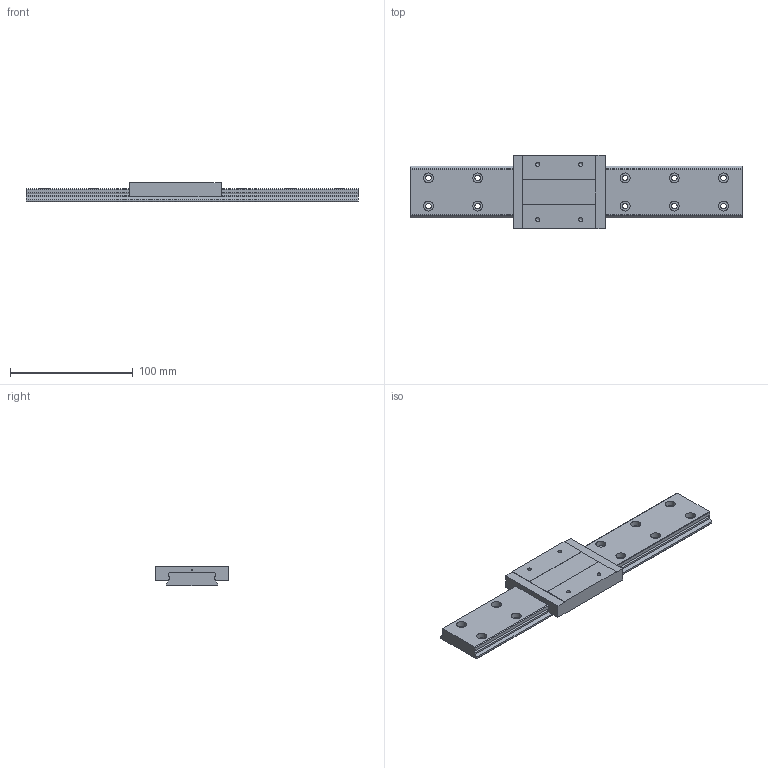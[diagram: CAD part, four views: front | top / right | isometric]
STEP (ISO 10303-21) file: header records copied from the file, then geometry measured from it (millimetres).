
FILE_DESCRIPTION((''),'2;1');
FILE_NAME('D:\製品 (図面)\カタログ用3D\リニアガイド関連\STEP形式\LGM-WL\LGM15WL.stp','2010-06-02T15:59:01',('Tsuchiya'),(''),'Autodesk Inventor 10','Autodesk Inventor 10','');
FILE_SCHEMA(('AUTOMOTIVE_DESIGN { 1 0 10303 214 1 1 1 1 }'));
Length unit declared in the file: millimetre
Products named in the file (3): LGM15WL; LGM15WL1; LGM15WL2
Assembly tree (2 placements, depth 2):
  LGM15WL
    LGM15WL1
    LGM15WL2
Bounding box: 270 x 60 x 16 mm (x, y, z)
Volume: 141912.5 mm3; surface area: 44362.4 mm2
Topology: 2 solids, 2 shells, 96 faces, 226 edges, 150 vertices
Faces by surface type: bspline 48, plane 39, cylinder 7, cone 2
Full cylindrical faces by diameter (mm): 1 x1, 3.242 x2
Entity records: 3087 total; most frequent: CARTESIAN_POINT 1033, DIRECTION 364, ORIENTED_EDGE 364, EDGE_CURVE 182, EDGE_LOOP 178, VERTEX_POINT 144, AXIS2_PLACEMENT_3D 129, VECTOR 106
